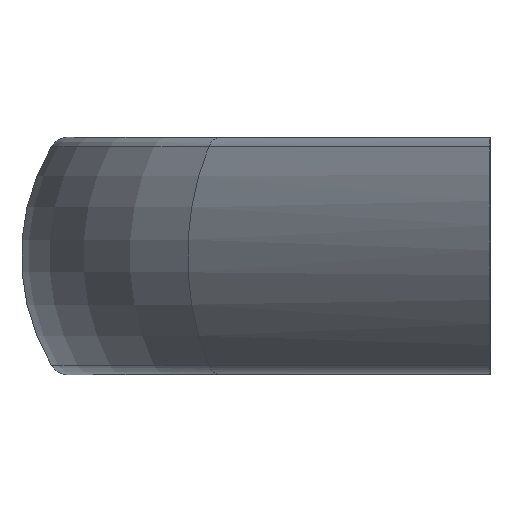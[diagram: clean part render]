
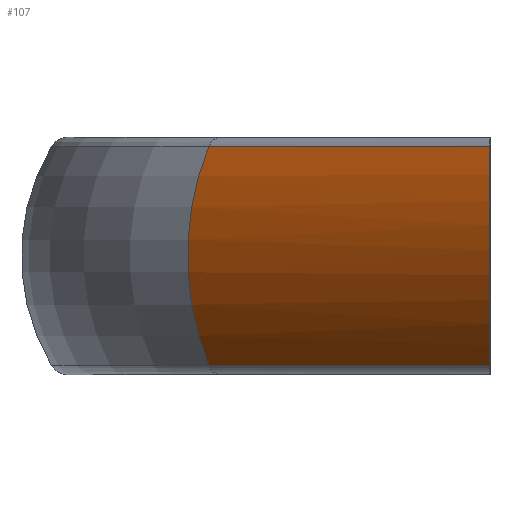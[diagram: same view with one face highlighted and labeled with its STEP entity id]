
A CAD part, left-side view. The second image highlights one B-rep face of the part: STEP entity #107.
In plain terms, the highlighted cylindrical face has radius 32.5 mm (diameter 65 mm), a partial arc.
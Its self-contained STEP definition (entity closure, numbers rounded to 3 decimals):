
#107 = ADVANCED_FACE( '', ( #181 ), #182, .T. );
#181 = FACE_OUTER_BOUND( '', #263, .T. );
#182 = CYLINDRICAL_SURFACE( '', #264, 32.5 );
#263 = EDGE_LOOP( '', ( #512, #513, #514, #515 ) );
#264 = AXIS2_PLACEMENT_3D( '', #516, #517, #518 );
#512 = ORIENTED_EDGE( '', *, *, #644, .F. );
#513 = ORIENTED_EDGE( '', *, *, #643, .T. );
#514 = ORIENTED_EDGE( '', *, *, #623, .F. );
#515 = ORIENTED_EDGE( '', *, *, #645, .F. );
#516 = CARTESIAN_POINT( '', ( -161.623, -30.203, 0. ) );
#517 = DIRECTION( '', ( -0.707, -0.707, 0. ) );
#518 = DIRECTION( '', ( -0.707, 0.707, 0. ) );
#623 = EDGE_CURVE( '', #748, #751, #752, .T. );
#643 = EDGE_CURVE( '', #777, #751, #779, .T. );
#644 = EDGE_CURVE( '', #777, #780, #781, .T. );
#645 = EDGE_CURVE( '', #780, #748, #782, .T. );
#748 = VERTEX_POINT( '', #904 );
#751 = VERTEX_POINT( '', #907 );
#752 = CIRCLE( '', #908, 32.5 );
#777 = VERTEX_POINT( '', #939 );
#779 = LINE( '', #941, #942 );
#780 = VERTEX_POINT( '', #943 );
#781 = ELLIPSE( '', #944, 45.962, 32.5 );
#782 = LINE( '', #945, #946 );
#904 = CARTESIAN_POINT( '', ( -128.379, 42.619, -16.525 ) );
#907 = CARTESIAN_POINT( '', ( -128.379, 42.619, 16.525 ) );
#908 = AXIS2_PLACEMENT_3D( '', #1088, #1089, #1090 );
#939 = CARTESIAN_POINT( '', ( -170.997, 0., 16.525 ) );
#941 = CARTESIAN_POINT( '', ( -181.412, -10.414, 16.525 ) );
#942 = VECTOR( '', #1136, 1000. );
#943 = CARTESIAN_POINT( '', ( -170.997, 0., -16.525 ) );
#944 = AXIS2_PLACEMENT_3D( '', #1137, #1138, #1139 );
#945 = CARTESIAN_POINT( '', ( -181.412, -10.414, -16.525 ) );
#946 = VECTOR( '', #1140, 1000. );
#1088 = CARTESIAN_POINT( '', ( -108.59, 22.83, 0. ) );
#1089 = DIRECTION( '', ( 0.707, 0.707, 0. ) );
#1090 = DIRECTION( '', ( 0., 0., -1. ) );
#1136 = DIRECTION( '', ( 0.707, 0.707, 0. ) );
#1137 = CARTESIAN_POINT( '', ( -131.42, 0., 0. ) );
#1138 = DIRECTION( '', ( 0., -1., 0. ) );
#1139 = DIRECTION( '', ( 1., 0., 0. ) );
#1140 = DIRECTION( '', ( 0.707, 0.707, 0. ) );
